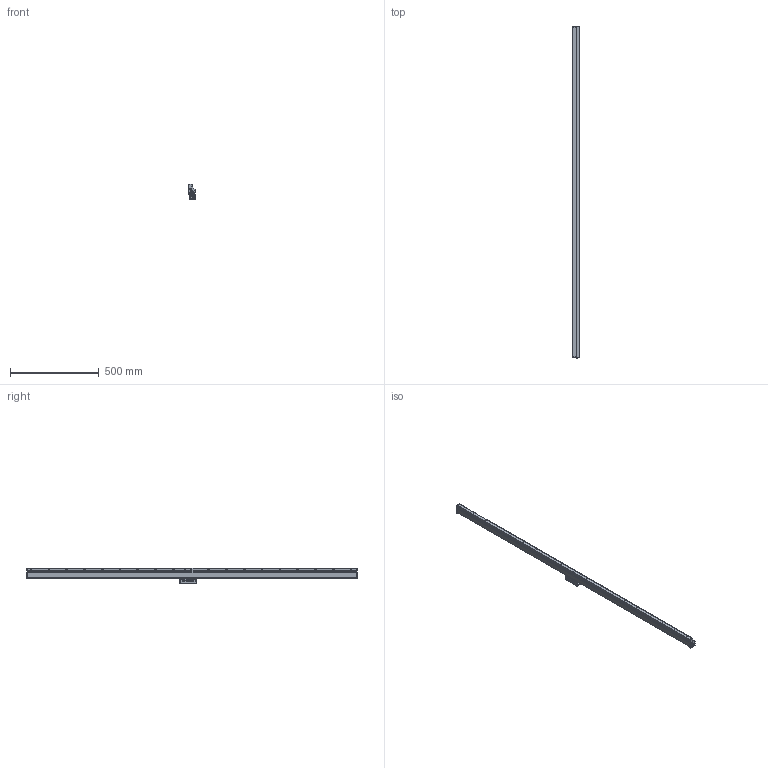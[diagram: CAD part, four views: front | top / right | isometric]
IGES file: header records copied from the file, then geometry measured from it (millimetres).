
Start section: Elysium IGES Interface
Global section: file name: 82HK:\20_商品設計\設計１課\個人\宮澤\郷間さん\AT1153\3D\NEW_ﾌｧｲﾙ\IGES\AT1153-1740.igs; native system: Creo Elements/Direct Modeling 18.1B  29-Sep-2012; preprocessor: Creo Element/Direct IGES_3D V2.2; author: Unknown; organization: Unknown; date: 20181012.115221; units: millimetre
Bounding box: 37 x 1868.31 x 85 mm (x, y, z)
Volume: 2922913.3 mm3; surface area: 419374.3 mm2
Topology: 2 solids, 2 shells, 3197 faces, 8572 edges, 5556 vertices
Faces by surface type: bspline 3197
